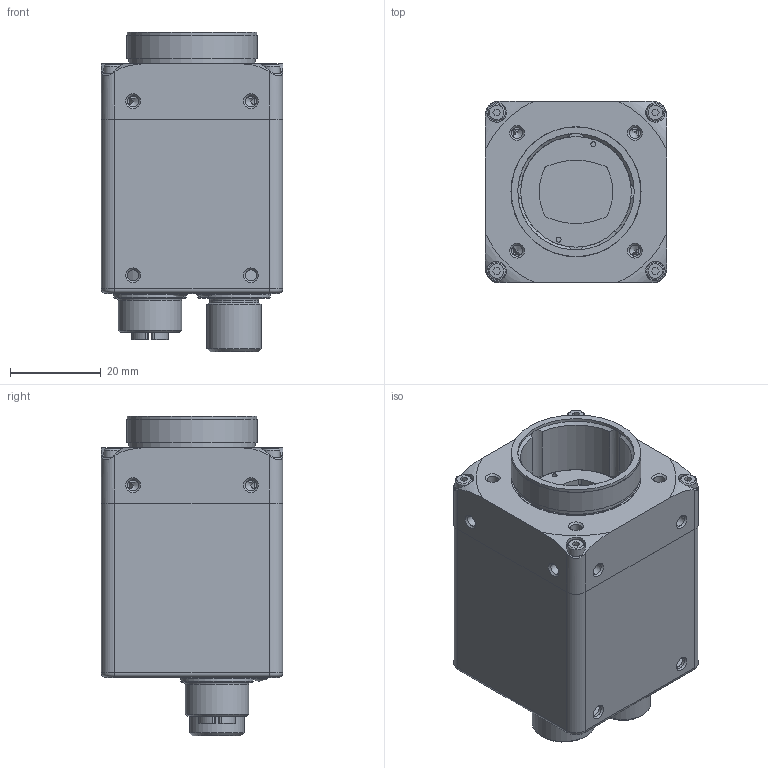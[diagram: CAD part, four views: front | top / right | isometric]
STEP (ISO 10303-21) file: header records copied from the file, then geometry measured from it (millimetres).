
FILE_DESCRIPTION( ( 'Unknown' ), '1' );
FILE_NAME( 'C:/Users/rih/Desktop/11186798_VCXG-25C.I.stp', '14.10.2014', ( 'Unknown' ), ( 'Unknown' ), 'PSStep 15.0.49', 'Unknown', ' ' );
FILE_SCHEMA( ( 'AUTOMOTIVE_DESIGN { 1 0 10303 214 1 1 1 1 }' ) );
Length unit declared in the file: millimetre
Products named in the file (3): 11096515
Bounding box: 40 x 40 x 70.6 mm (x, y, z)
Volume: 26238.7 mm3; surface area: 31106.2 mm2
Topology: 3 solids, 4 shells, 2688 faces, 7455 edges, 4862 vertices
Faces by surface type: plane 1729, cylinder 729, torus 92, cone 67, sphere 36, bspline 19, extrusion 16
Full cylindrical faces by diameter (mm): 0.217 x2, 0.6 x12, 0.63 x12, 0.7 x8, 0.75 x1, 0.8 x8, 0.85 x1, 1 x3, 1.1 x14, 1.24 x8, 2 x6, 2.4 x4, 2.459 x26, 2.8 x2, 3.4 x2, 3.8 x4, 8 x2, 8.25 x1, 8.3 x1, 8.4 x1, 8.9 x1, 9 x1, 9.3 x2, 9.4 x2, 10 x1, 10.2 x1, 10.75 x1, 11 x1, 12 x3, 13.3 x2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
Entity records: 109186 total; most frequent: CARTESIAN_POINT 19850, DIRECTION 14028, ORIENTED_EDGE 14014, EDGE_CURVE 7007, VERTEX_POINT 4727, AXIS2_PLACEMENT_3D 4683, VECTOR 4662, LINE 4646
